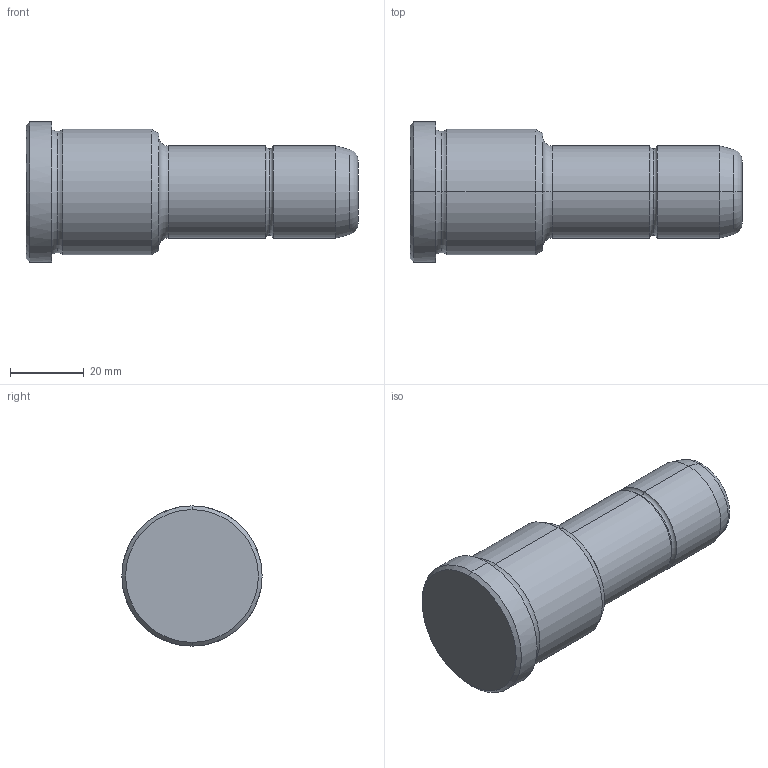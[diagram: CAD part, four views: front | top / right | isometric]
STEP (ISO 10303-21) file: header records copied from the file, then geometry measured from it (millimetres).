
FILE_DESCRIPTION(('CATIA V5 STEP Exchange'),'2;1');
FILE_NAME('C:\Users\Utente\Desktop\IO LAVORO\3D X SITO CF\X SITO\PLASTICA\351\351-25X36X90.stp','2021-08-28T09:20:39+00:00',('none'),('none'),'CATIA Version 5 Release 20 GA (IN-10)','CATIA V5 STEP AP203','none');
FILE_SCHEMA(('CONFIG_CONTROL_DESIGN'));
Length unit declared in the file: millimetre
Products named in the file (1): 351-25X36X90
Bounding box: 90 x 38 x 38 mm (x, y, z)
Volume: 60077.8 mm3; surface area: 10081.4 mm2
Topology: 1 solids, 1 shells, 30 faces, 86 edges, 60 vertices
Faces by surface type: torus 12, cylinder 8, cone 6, plane 4
Entity records: 1112 total; most frequent: CARTESIAN_POINT 289, ORIENTED_EDGE 172, DIRECTION 138, AXIS2_PLACEMENT_3D 95, EDGE_CURVE 86, CIRCLE 64, VERTEX_POINT 60, EDGE_LOOP 32
